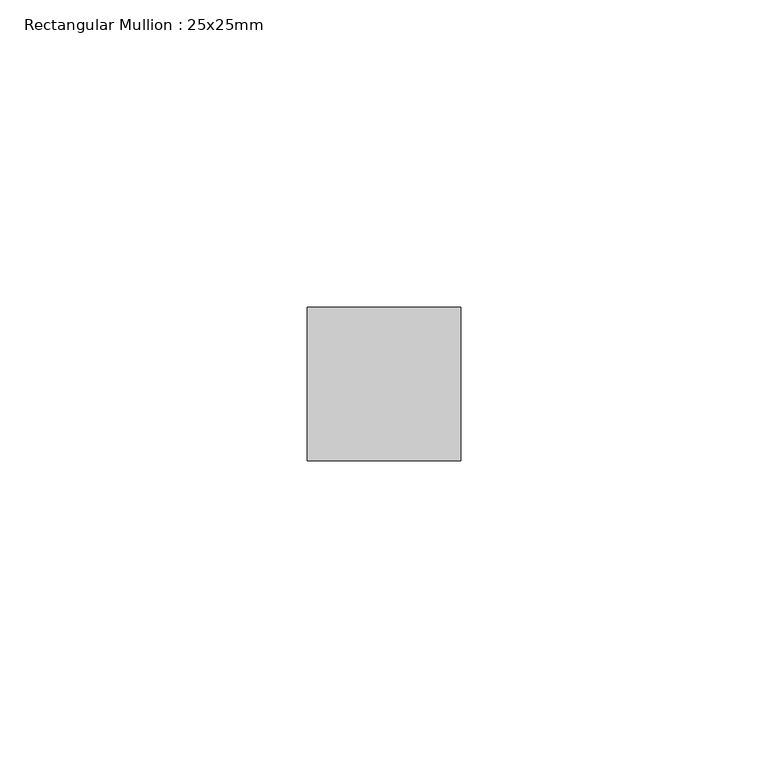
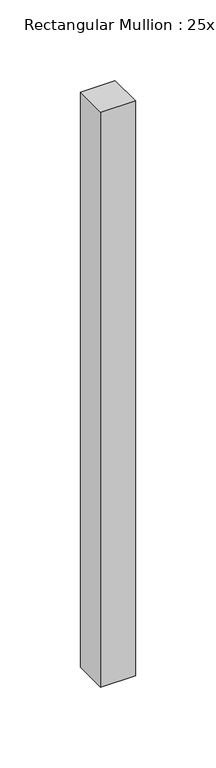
"""IFC4 building model written with IfcOpenShell, lengths in millimetres: member geometry, Rectangular Mullion : 25x25mm."""

import ifcopenshell
import ifcopenshell.guid

model = None  # the IFC model being written
_history = None  # IfcOwnerHistory: only IFC2X3 demands one
_inside = {}  # id of a spatial element -> (the spatial element, [elements in it])
_under = {}  # id of a project, library or spatial element -> (it, [spatial elements below it])
_declared = {}  # id of a project -> (the project, [libraries it declares])
_typed = {}  # id of a type object -> (the type object, [elements of that type])
_made_of = {}  # id of a material, layer set ... -> (it, [elements and type objects made of it])


def new_model(schema):
    """Start an empty IFC model of exactly this schema.

    Asked for "IFC4X3", IfcOpenShell would pick the latest addendum, in which some entities
    have other attributes; the version numbers below select the first issue.
    IFC2X3 requires an IfcOwnerHistory on every rooted entity: one is made here for all.
    """
    global model, _history
    if schema == "IFC4X3":
        model = ifcopenshell.file(schema_version=(4, 3, 0, 0))
    else:
        model = ifcopenshell.file(schema=schema)
    _inside.clear()
    _under.clear()
    _declared.clear()
    _typed.clear()
    _made_of.clear()
    _history = None
    if model.schema == "IFC2X3":
        org = make("IfcOrganization", Name="unknown")
        user = make(
            "IfcPersonAndOrganization",
            ThePerson=make("IfcPerson", FamilyName="unknown"),
            TheOrganization=org,
        )
        app = make(
            "IfcApplication",
            ApplicationDeveloper=org,
            Version="unknown",
            ApplicationFullName="unknown",
            ApplicationIdentifier="unknown",
        )
        _history = make(
            "IfcOwnerHistory",
            OwningUser=user,
            OwningApplication=app,
            ChangeAction="ADDED",
            CreationDate=0,
        )
    return model


def make(cls, **values):
    """One entity of the class cls with the attributes given. An attribute that is None is left unset."""
    return model.create_entity(
        cls, **{name: value for name, value in values.items() if value is not None}
    )


def rooted(cls, **values):
    """An entity with a GlobalId (a new one), such as an element, a storey or a relation."""
    return make(cls, GlobalId=ifcopenshell.guid.new(), OwnerHistory=_history, **values)


def si_unit(unit_type, name, prefix=None):
    """IfcSIUnit, for example si_unit("LENGTHUNIT", "METRE", prefix="MILLI")."""
    return make("IfcSIUnit", UnitType=unit_type, Prefix=prefix, Name=name)


def assignment(units):
    """IfcUnitAssignment: the units of a project."""
    return None if units is None else make("IfcUnitAssignment", Units=units)


def point(xyz):
    """IfcCartesianPoint."""
    return None if xyz is None else make("IfcCartesianPoint", Coordinates=xyz)


def direction(xyz):
    """IfcDirection."""
    return None if xyz is None else make("IfcDirection", DirectionRatios=xyz)


def frame(location, z_axis=None, x_axis=None):
    """IfcAxis2Placement3D, a coordinate frame: its origin and axes. An axis left out is left unset."""
    return make(
        "IfcAxis2Placement3D",
        Location=point(location),
        Axis=direction(z_axis),
        RefDirection=direction(x_axis),
    )


def origin():
    """The frame at (0, 0, 0) with its axes left unset."""
    return frame((0.0, 0.0, 0.0))


def place(relative_to, where):
    """IfcLocalPlacement: puts the frame where relative to a parent placement (None: the world)."""
    return make(
        "IfcLocalPlacement", PlacementRelTo=relative_to, RelativePlacement=where
    )


def context(
    kind, dimensions, precision=None, world=None, true_north=None, identifier=None
):
    """IfcGeometricRepresentationContext, for example the 3D "Model" context."""
    return make(
        "IfcGeometricRepresentationContext",
        ContextIdentifier=identifier,
        ContextType=kind,
        CoordinateSpaceDimension=dimensions,
        Precision=precision,
        WorldCoordinateSystem=world,
        TrueNorth=true_north,
    )


def project(units=None, contexts=None):
    """IfcProject with its units and contexts."""
    return rooted(
        "IfcProject",
        Name="project",
        RepresentationContexts=contexts,
        UnitsInContext=assignment(units),
    )


def spatial(cls, under=None, at=None, **own):
    """A site, building, storey or space (cls), placed at a placement, below another one or the project."""
    s = rooted(cls, ObjectPlacement=at, **own)
    if under is not None:
        _under.setdefault(under.id(), (under, []))[1].append(s)
    return s


def polyline(points):
    """IfcPolyline through the points."""
    return make("IfcPolyline", Points=[point(p) for p in points])


def outline(outer, holes=None, kind="AREA"):
    """IfcArbitraryClosedProfileDef: a profile drawn as a closed curve; with holes, ...WithVoids."""
    if holes is None:
        return make("IfcArbitraryClosedProfileDef", ProfileType=kind, OuterCurve=outer)
    return make(
        "IfcArbitraryProfileDefWithVoids",
        ProfileType=kind,
        OuterCurve=outer,
        InnerCurves=holes,
    )


def extrude(swept, where, along, depth):
    """IfcExtrudedAreaSolid: the profile swept, set in the frame where, extruded along a direction by depth."""
    return make(
        "IfcExtrudedAreaSolid",
        SweptArea=swept,
        Position=where,
        ExtrudedDirection=direction(along),
        Depth=depth,
    )


def shape(context_of_items, identifier, shape_type, items):
    """IfcShapeRepresentation: the items that make up one representation, for example the "Body"."""
    return make(
        "IfcShapeRepresentation",
        ContextOfItems=context_of_items,
        RepresentationIdentifier=identifier,
        RepresentationType=shape_type,
        Items=items,
    )


def source(mapping_origin, context_of_items, identifier, shape_type, items):
    """IfcRepresentationMap: a shape defined once, which mapped items show again and again."""
    return make(
        "IfcRepresentationMap",
        MappingOrigin=mapping_origin,
        MappedRepresentation=shape(context_of_items, identifier, shape_type, items),
    )


def transform(
    local_origin,
    x_axis=None,
    y_axis=None,
    z_axis=None,
    scale=None,
    scale2=None,
    scale3=None,
    uniform=True,
):
    """IfcCartesianTransformationOperator3D, or its non-uniform kind. x_axis, y_axis, z_axis: its Axis1, 2, 3."""
    if uniform:
        return make(
            "IfcCartesianTransformationOperator3D",
            Axis1=direction(x_axis),
            Axis2=direction(y_axis),
            LocalOrigin=point(local_origin),
            Scale=scale,
            Axis3=direction(z_axis),
        )
    return make(
        "IfcCartesianTransformationOperator3DnonUniform",
        Axis1=direction(x_axis),
        Axis2=direction(y_axis),
        LocalOrigin=point(local_origin),
        Scale=scale,
        Axis3=direction(z_axis),
        Scale2=scale2,
        Scale3=scale3,
    )


def mapped(mapping_source, mapping_target):
    """IfcMappedItem: shows the shape of a source again, moved by a transform."""
    return make(
        "IfcMappedItem", MappingSource=mapping_source, MappingTarget=mapping_target
    )


def made_of(thing, what):
    """Note that an element or type object is made of a material, layer set ...; save() writes the relation."""
    if what is not None:
        _made_of.setdefault(what.id(), (what, []))[1].append(thing)
    return thing


def element(
    cls,
    number,
    at=None,
    inside=None,
    cuts=None,
    type_object=None,
    material=None,
    context=None,
    identifier="Body",
    shape_type=None,
    held_by="IfcProductDefinitionShape",
    body=None,
    shapes=None,
    **own,
):
    """One element of the class cls, such as IfcWall. Its Tag is "e" and its number.

    at: its placement. inside: the storey or other place that contains it. cuts: it is an
    opening in that element (IfcRelVoidsElement). A single representation is given by context,
    identifier, shape_type and body (its items); several are given by shapes. held_by: the class
    of the entity that holds the representations. save() writes the other relations.
    """
    e = rooted(cls, Tag="e%d" % number, ObjectPlacement=at, **own)
    if body is not None:
        shapes = [shape(context, identifier, shape_type, body)]
    if shapes is not None:
        e.Representation = make(held_by, Representations=shapes)
    if inside is not None:
        _inside.setdefault(inside.id(), (inside, []))[1].append(e)
    if cuts is not None:
        rooted(
            "IfcRelVoidsElement", RelatingBuildingElement=cuts, RelatedOpeningElement=e
        )
    if type_object is not None:
        _typed.setdefault(type_object.id(), (type_object, []))[1].append(e)
    return made_of(e, material)


def aggregate(whole, parts):
    """IfcRelAggregates: a whole, such as a stair, and the parts it consists of."""
    return rooted("IfcRelAggregates", RelatingObject=whole, RelatedObjects=parts)


def save(model, path):
    """Write the relations noted so far, then the file.

    IfcRelAggregates (storeys below a building ...), IfcRelContainedInSpatialStructure (elements
    in a storey), IfcRelDefinesByType, IfcRelAssociatesMaterial and IfcRelDeclares: one each for
    every whole, place, type object, material and project.
    """
    for whole, parts in _under.values():
        aggregate(whole, parts)
    for where, things in _inside.values():
        rooted(
            "IfcRelContainedInSpatialStructure",
            RelatedElements=things,
            RelatingStructure=where,
        )
    for kind, things in _typed.values():
        rooted("IfcRelDefinesByType", RelatedObjects=things, RelatingType=kind)
    for what, things in _made_of.values():
        rooted("IfcRelAssociatesMaterial", RelatedObjects=things, RelatingMaterial=what)
    for by, libraries in _declared.values():
        rooted("IfcRelDeclares", RelatingContext=by, RelatedDefinitions=libraries)
    model.write(path)


def rectangular_mullion_25x25mm_dab48287(model_context):
    return source(origin(), model_context, "Body", "SweptSolid", [
        extrude(outline(polyline([(0.0, 0.5), (0.0, -24.5), (-25.0, -24.5), (-25.0, 0.5), (0.0, 0.5)])), frame((0.0, 0.0, -436.25), z_axis=(0.0, 0.0, 1.0), x_axis=(1.0, 0.0, 0.0)), (0.0, 0.0, 1.0), 436.25),
    ])


if __name__ == "__main__":
    model = new_model("IFC4")
    model_context = context("Model", 3, world=origin())
    ifc_project = project(units=[si_unit("LENGTHUNIT", "METRE", prefix="MILLI")], contexts=[model_context])
    site = spatial("IfcSite", under=ifc_project)
    building = spatial("IfcBuilding", under=site)
    placement = place(None, origin())
    rectangular_mullion_25x25mm_shape = rectangular_mullion_25x25mm_dab48287(model_context)
    element("IfcMember", 1, ObjectType="Rectangular Mullion : 25x25mm", at=placement, inside=building, context=model_context, shape_type="MappedRepresentation", body=[
        mapped(rectangular_mullion_25x25mm_shape, transform((0.0, 0.0, 0.0), x_axis=(1.0, 0.0, 0.0), y_axis=(0.0, 1.0, 0.0), z_axis=(0.0, 0.0, 1.0))),
    ])
    save(model, "model.ifc")
